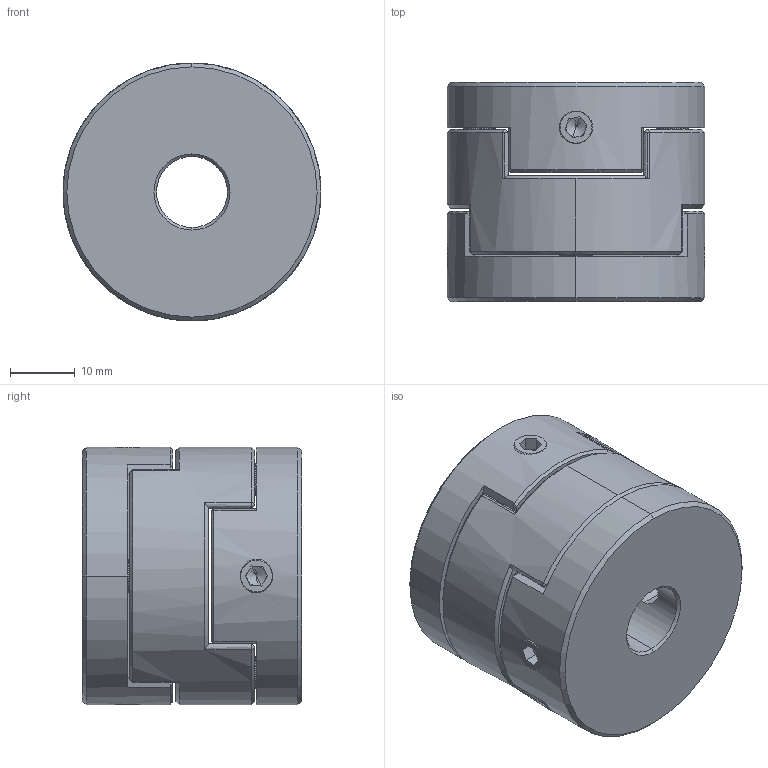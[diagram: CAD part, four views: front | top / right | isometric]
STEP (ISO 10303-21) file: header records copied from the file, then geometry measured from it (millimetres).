
FILE_DESCRIPTION (( 'STEP AP203' ), '1' );
FILE_NAME ('LZ-D-D40L35-11-20.STEP', '2021-10-30T05:16:11', ( '' ), ( '' ), 'SwSTEP 2.0', 'SolidWorks 2018', '' );
FILE_SCHEMA (( 'CONFIG_CONTROL_DESIGN' ));
Length unit declared in the file: millimetre
Products named in the file (1): LZ-D-D40L35-11-20
Bounding box: 40 x 34 x 40 mm (x, y, z)
Volume: 33723.4 mm3; surface area: 12317.4 mm2
Topology: 1 solids, 1 shells, 218 faces, 548 edges, 331 vertices
Faces by surface type: plane 89, bspline 55, cone 48, cylinder 26
Entity records: 7780 total; most frequent: CARTESIAN_POINT 3020, ORIENTED_EDGE 1080, DIRECTION 800, EDGE_CURVE 540, VERTEX_POINT 331, AXIS2_PLACEMENT_3D 290, EDGE_LOOP 243, LINE 220
